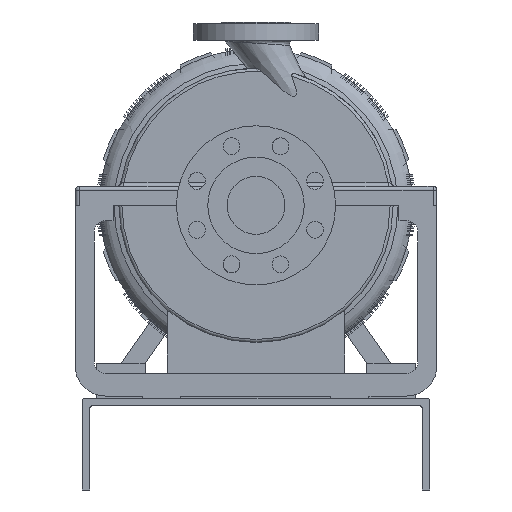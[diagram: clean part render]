
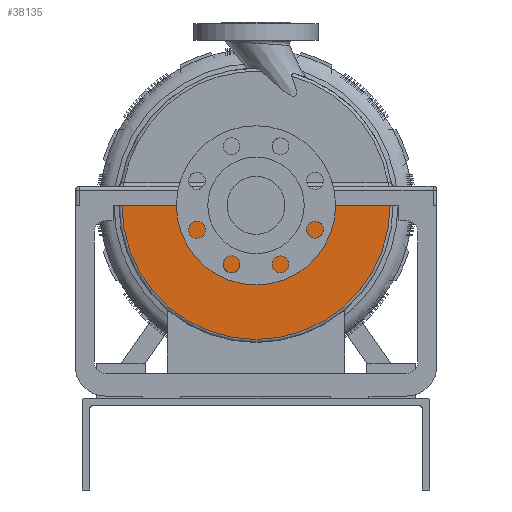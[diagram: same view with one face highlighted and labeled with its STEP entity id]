
A CAD part, front view. The second image highlights one B-rep face of the part: STEP entity #38135.
In plain terms, the highlighted planar face has unit normal (0, -1, 0).
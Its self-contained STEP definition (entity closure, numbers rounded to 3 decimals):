
#863=LINE('',#50591,#3462);
#869=LINE('',#50612,#3468);
#3462=VECTOR('',#42529,1000.);
#3468=VECTOR('',#42545,1000.);
#6122=ORIENTED_EDGE('',*,*,#14276,.T.);
#6123=ORIENTED_EDGE('',*,*,#14220,.F.);
#6124=ORIENTED_EDGE('',*,*,#14277,.T.);
#6125=ORIENTED_EDGE('',*,*,#14230,.F.);
#14220=EDGE_CURVE('',#18298,#18299,#863,.T.);
#14230=EDGE_CURVE('',#18308,#18309,#869,.T.);
#14276=EDGE_CURVE('',#18308,#18299,#20832,.T.);
#14277=EDGE_CURVE('',#18298,#18309,#20833,.F.);
#18298=VERTEX_POINT('',#50590);
#18299=VERTEX_POINT('',#50592);
#18308=VERTEX_POINT('',#50611);
#18309=VERTEX_POINT('',#50613);
#20832=CIRCLE('',#39841,176.5);
#20833=CIRCLE('',#39842,67.071);
#21965=EDGE_LOOP('',(#6122,#6123,#6124,#6125));
#23733=FACE_BOUND('',#21965,.T.);
#25464=PLANE('',#39840);
#38135=ADVANCED_FACE('',(#23733),#25464,.T.);
#39840=AXIS2_PLACEMENT_3D('',#50761,#42642,#42643);
#39841=AXIS2_PLACEMENT_3D('',#50762,#42644,#42645);
#39842=AXIS2_PLACEMENT_3D('',#50763,#42646,#42647);
#42529=DIRECTION('',(1.,0.,0.));
#42545=DIRECTION('',(1.,0.,0.));
#42642=DIRECTION('',(0.,-1.,0.));
#42643=DIRECTION('',(1.,0.,0.));
#42644=DIRECTION('',(0.,-1.,0.));
#42645=DIRECTION('',(1.,0.,0.));
#42646=DIRECTION('',(0.,-1.,0.));
#42647=DIRECTION('',(1.,0.,0.));
#50590=CARTESIAN_POINT('',(67.071,-28.,0.));
#50591=CARTESIAN_POINT('',(0.,-28.,0.));
#50592=CARTESIAN_POINT('',(176.5,-28.,0.));
#50611=CARTESIAN_POINT('',(-176.5,-28.,0.));
#50612=CARTESIAN_POINT('',(0.,-28.,0.));
#50613=CARTESIAN_POINT('',(-67.071,-28.,0.));
#50761=CARTESIAN_POINT('',(0.,-28.,65.));
#50762=CARTESIAN_POINT('',(0.,-28.,0.));
#50763=CARTESIAN_POINT('',(0.,-28.,0.));
